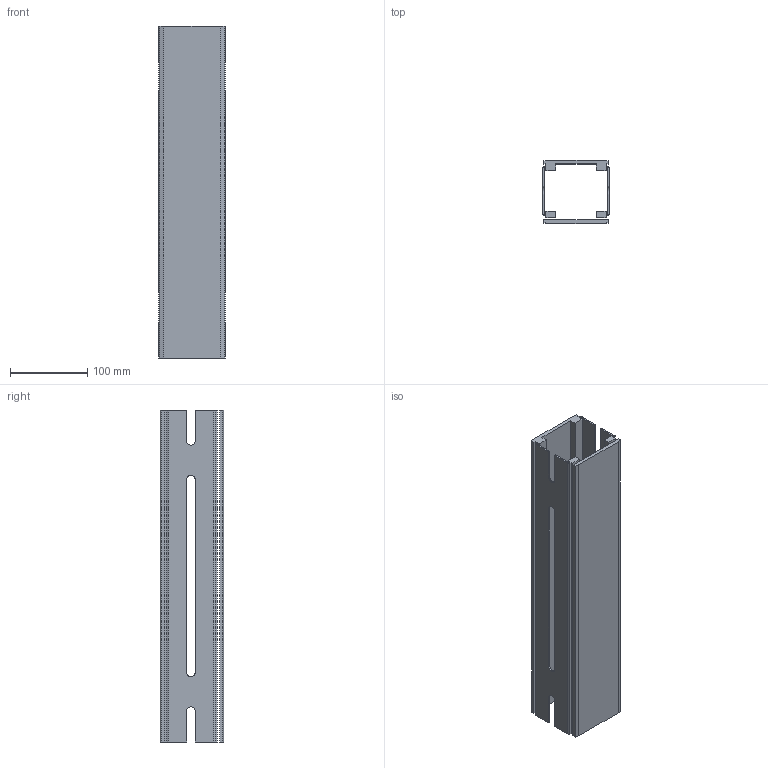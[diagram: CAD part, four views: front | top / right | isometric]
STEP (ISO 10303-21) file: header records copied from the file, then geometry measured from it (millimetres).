
FILE_DESCRIPTION((''),'2;1');
FILE_NAME('C:\Vault Klient\Projekt\Koncept konstruktion\Serie 530 Balk\530-1000.stp','2010-11-25T09:00:03',('Mathias'),(''),'Autodesk Inventor 2011','Autodesk Inventor 2011','');
FILE_SCHEMA(('AUTOMOTIVE_DESIGN { 1 0 10303 214 1 1 1 1 }'));
Length unit declared in the file: millimetre
Products named in the file (1): 530-1000
Bounding box: 86 x 82 x 430 mm (x, y, z)
Volume: 623080.5 mm3; surface area: 299679.7 mm2
Topology: 2 solids, 2 shells, 111 faces, 306 edges, 204 vertices
Faces by surface type: plane 85, bspline 14, cylinder 12
Entity records: 3650 total; most frequent: CARTESIAN_POINT 816, ORIENTED_EDGE 612, DIRECTION 498, EDGE_CURVE 306, VECTOR 254, LINE 254, VERTEX_POINT 204, AXIS2_PLACEMENT_3D 122
